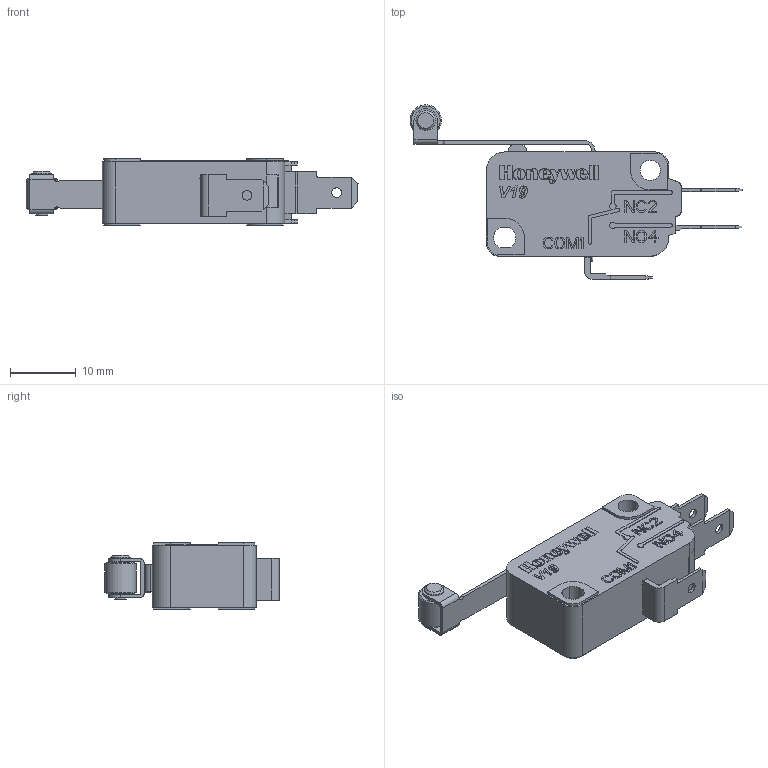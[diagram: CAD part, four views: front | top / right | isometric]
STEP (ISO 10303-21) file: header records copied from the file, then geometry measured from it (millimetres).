
FILE_DESCRIPTION((''),'2;1');
FILE_NAME('V19T16-EZ100A06','2020-06-15T17:05:04',('H252115'),(''),'CREO PARAMETRIC BY PTC INC, 2017380','CREO PARAMETRIC BY PTC INC, 2017380','');
FILE_SCHEMA(('CONFIG_CONTROL_DESIGN'));
Length unit declared in the file: millimetre
Products named in the file (1): V19T16-EZ100A06
Bounding box: 50.65 x 26.61 x 10.2 mm (x, y, z)
Volume: 4324.3 mm3; surface area: 2885.5 mm2
Topology: 1 solids, 1 shells, 748 faces, 2108 edges, 1403 vertices
Faces by surface type: plane 539, extrusion 101, cylinder 96, cone 6, torus 4, bspline 2
Entity records: 26518 total; most frequent: CARTESIAN_POINT 7278, ORIENTED_EDGE 4216, DIRECTION 3504, EDGE_CURVE 2108, VECTOR 1772, LINE 1671, VERTEX_POINT 1403, AXIS2_PLACEMENT_3D 866
